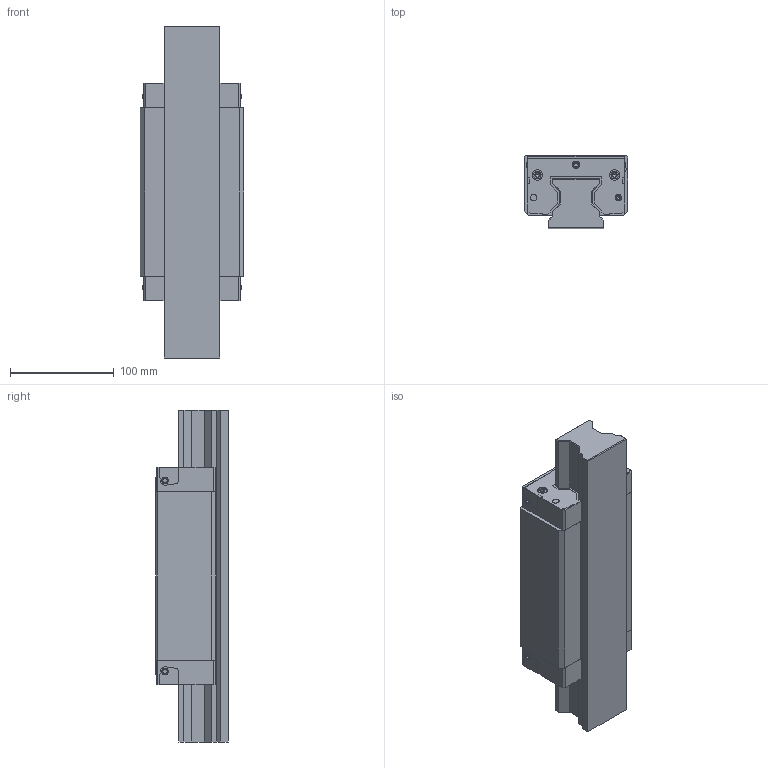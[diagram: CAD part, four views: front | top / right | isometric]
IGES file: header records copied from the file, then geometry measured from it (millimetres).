
Start section: 3D InterOp IGES (v. 2019 1.0.2), Spatial Corp. Copyright (c) 1999-2017.
Global section: file name: R1823_size55.igs; native system: Spatial Corp.; preprocessor: 3D InterOp GENERIC/IGES 3.0; author: Noname; organization: Noname; date: 20220630.112904; units: millimetre
Bounding box: 100 x 70 x 319.65 mm (x, y, z)
Surface area: 217791.4 mm2 (no closed solid volume)
Topology: 0 solids, 0 shells, 540 faces, 2892 edges, 2860 vertices
Faces by surface type: extrusion 328, revolution 212
